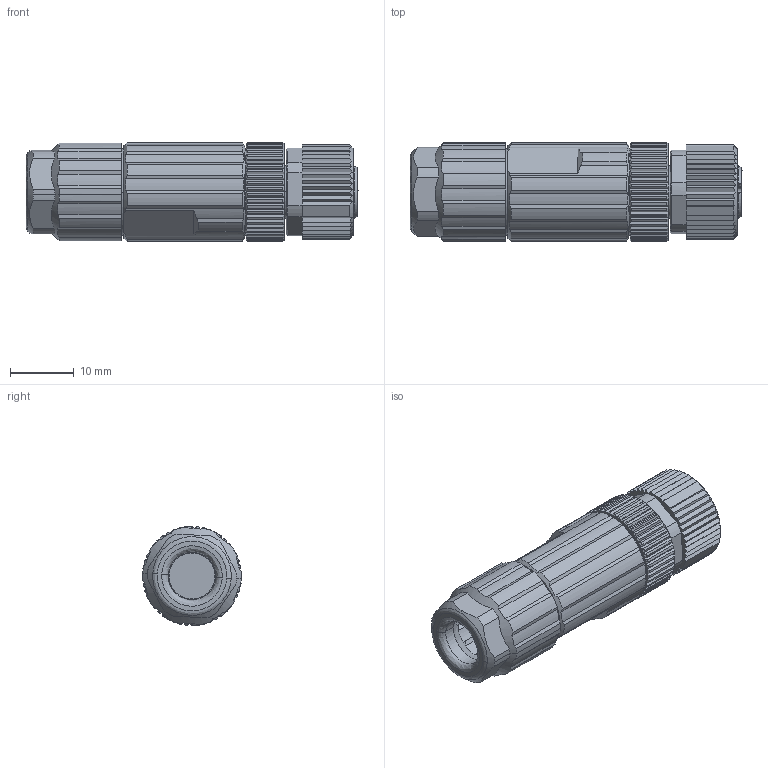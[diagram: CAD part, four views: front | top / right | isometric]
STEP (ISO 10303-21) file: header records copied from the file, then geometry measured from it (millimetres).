
FILE_DESCRIPTION (( 'STEP AP203' ), '1' );
FILE_NAME ('64F941.STEP', '2021-05-05T04:40:10', ( '' ), ( '' ), 'SwSTEP 2.0', 'SolidWorks 2016', '' );
FILE_SCHEMA (( 'CONFIG_CONTROL_DESIGN' ));
Length unit declared in the file: millimetre
Products named in the file (1): 64F941
Bounding box: 52.2 x 15.59 x 15.6 mm (x, y, z)
Volume: 7370.7 mm3; surface area: 6031 mm2
Topology: 1 solids, 1 shells, 770 faces, 2233 edges, 1482 vertices
Faces by surface type: plane 364, cylinder 206, cone 153, bspline 43, torus 4
Entity records: 78892 total; most frequent: CARTESIAN_POINT 59830, ORIENTED_EDGE 4466, DIRECTION 3340, EDGE_CURVE 2233, VERTEX_POINT 1482, AXIS2_PLACEMENT_3D 1255, B_SPLINE_CURVE_WITH_KNOTS 860, VECTOR 830
